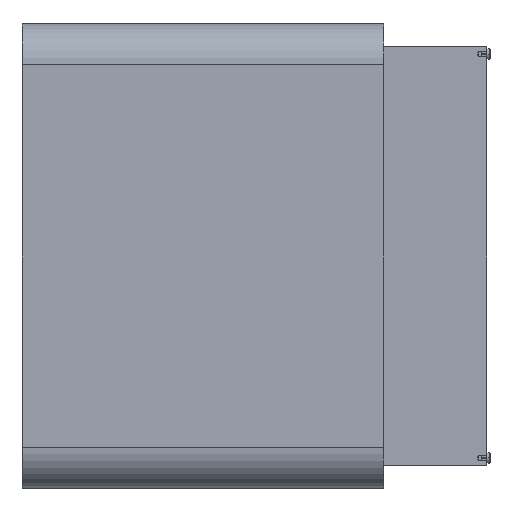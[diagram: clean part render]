
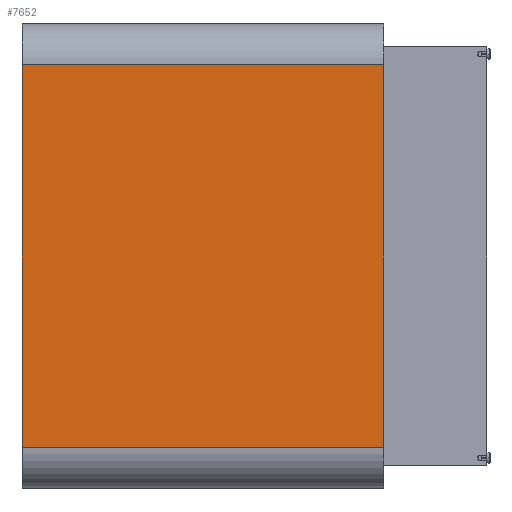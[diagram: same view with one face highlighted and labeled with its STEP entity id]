
A CAD part, left-side view. The second image highlights one B-rep face of the part: STEP entity #7652.
In plain terms, the highlighted planar face has unit normal (-1, 0, 0).
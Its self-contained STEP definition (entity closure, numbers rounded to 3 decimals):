
#46 = VERTEX_POINT ( 'NONE', #2747 ) ;
#260 = EDGE_CURVE ( 'NONE', #2613, #46, #7522, .T. ) ;
#346 = CARTESIAN_POINT ( 'NONE',  ( -1099., 350., 185. ) ) ;
#740 = PLANE ( 'NONE',  #3545 ) ;
#862 = VECTOR ( 'NONE', #5006, 1000. ) ;
#1035 = VECTOR ( 'NONE', #5902, 1000. ) ;
#1088 = ORIENTED_EDGE ( 'NONE', *, *, #3471, .T. ) ;
#1238 = EDGE_CURVE ( 'NONE', #1573, #5743, #6540, .T. ) ;
#1444 = ORIENTED_EDGE ( 'NONE', *, *, #4525, .T. ) ;
#1573 = VERTEX_POINT ( 'NONE', #6317 ) ;
#1702 = EDGE_LOOP ( 'NONE', ( #4022, #1088, #6315, #1444 ) ) ;
#1769 = DIRECTION ( 'NONE',  ( 0., 0., 1. ) ) ;
#1782 = VECTOR ( 'NONE', #1769, 1000. ) ;
#1857 = CARTESIAN_POINT ( 'NONE',  ( -1099., 0., -225. ) ) ;
#2327 = LINE ( 'NONE', #3039, #8025 ) ;
#2613 = VERTEX_POINT ( 'NONE', #4208 ) ;
#2747 = CARTESIAN_POINT ( 'NONE',  ( -1099., 0., 185. ) ) ;
#3039 = CARTESIAN_POINT ( 'NONE',  ( -1099., 350., 185. ) ) ;
#3471 = EDGE_CURVE ( 'NONE', #46, #5743, #2327, .T. ) ;
#3545 = AXIS2_PLACEMENT_3D ( 'NONE', #5779, #7710, #4436 ) ;
#4022 = ORIENTED_EDGE ( 'NONE', *, *, #260, .T. ) ;
#4208 = CARTESIAN_POINT ( 'NONE',  ( -1099., 0., -185. ) ) ;
#4436 = DIRECTION ( 'NONE',  ( 0., 0., -1. ) ) ;
#4525 = EDGE_CURVE ( 'NONE', #1573, #2613, #6319, .T. ) ;
#4560 = FACE_OUTER_BOUND ( 'NONE', #1702, .T. ) ;
#5006 = DIRECTION ( 'NONE',  ( 0., -1., 0. ) ) ;
#5743 = VERTEX_POINT ( 'NONE', #346 ) ;
#5779 = CARTESIAN_POINT ( 'NONE',  ( -1099., 350., -225. ) ) ;
#5902 = DIRECTION ( 'NONE',  ( 0., 0., 1. ) ) ;
#6315 = ORIENTED_EDGE ( 'NONE', *, *, #1238, .F. ) ;
#6317 = CARTESIAN_POINT ( 'NONE',  ( -1099., 350., -185. ) ) ;
#6319 = LINE ( 'NONE', #6441, #862 ) ;
#6441 = CARTESIAN_POINT ( 'NONE',  ( -1099., 350., -185. ) ) ;
#6540 = LINE ( 'NONE', #7791, #1035 ) ;
#7501 = DIRECTION ( 'NONE',  ( 0., 1., 0. ) ) ;
#7522 = LINE ( 'NONE', #1857, #1782 ) ;
#7652 = ADVANCED_FACE ( 'NONE', ( #4560 ), #740, .F. ) ;
#7710 = DIRECTION ( 'NONE',  ( 1., 0., 0. ) ) ;
#7791 = CARTESIAN_POINT ( 'NONE',  ( -1099., 350., -225. ) ) ;
#8025 = VECTOR ( 'NONE', #7501, 1000. ) ;
